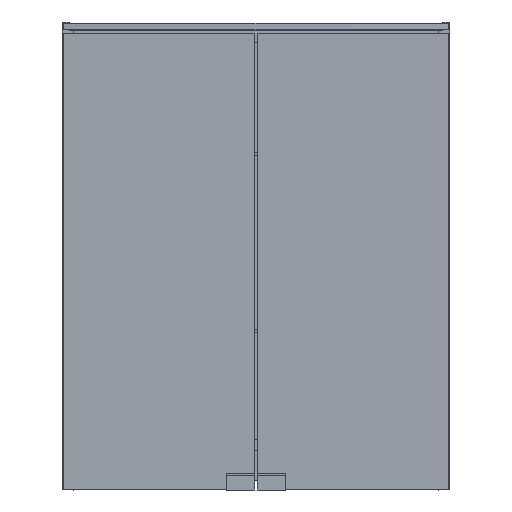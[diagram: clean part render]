
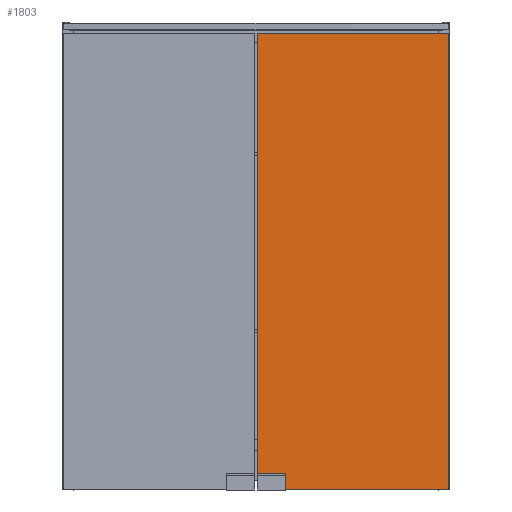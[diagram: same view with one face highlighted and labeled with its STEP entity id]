
A CAD part, front view. The second image highlights one B-rep face of the part: STEP entity #1803.
In plain terms, the highlighted planar face has unit normal (0, -1, 0).
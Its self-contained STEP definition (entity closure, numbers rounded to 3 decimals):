
#27=FACE_OUTER_BOUND('',#117,.T.);
#117=EDGE_LOOP('',(#1147,#1148,#1149,#1150,#1151,#1152));
#206=LINE('',#2445,#454);
#223=LINE('',#2478,#471);
#226=LINE('',#2485,#474);
#227=LINE('',#2487,#475);
#228=LINE('',#2489,#476);
#229=LINE('',#2490,#477);
#454=VECTOR('',#2008,10.);
#471=VECTOR('',#2033,10.);
#474=VECTOR('',#2040,10.);
#475=VECTOR('',#2041,10.);
#476=VECTOR('',#2042,10.);
#477=VECTOR('',#2043,10.);
#702=VERTEX_POINT('',#2442);
#703=VERTEX_POINT('',#2444);
#715=VERTEX_POINT('',#2476);
#717=VERTEX_POINT('',#2484);
#718=VERTEX_POINT('',#2486);
#719=VERTEX_POINT('',#2488);
#868=EDGE_CURVE('',#703,#702,#206,.T.);
#885=EDGE_CURVE('',#702,#715,#223,.T.);
#888=EDGE_CURVE('',#715,#717,#226,.T.);
#889=EDGE_CURVE('',#717,#718,#227,.T.);
#890=EDGE_CURVE('',#719,#718,#228,.T.);
#891=EDGE_CURVE('',#703,#719,#229,.T.);
#1147=ORIENTED_EDGE('',*,*,#868,.T.);
#1148=ORIENTED_EDGE('',*,*,#885,.T.);
#1149=ORIENTED_EDGE('',*,*,#888,.T.);
#1150=ORIENTED_EDGE('',*,*,#889,.T.);
#1151=ORIENTED_EDGE('',*,*,#890,.F.);
#1152=ORIENTED_EDGE('',*,*,#891,.F.);
#1621=PLANE('',#1915);
#1803=ADVANCED_FACE('',(#27),#1621,.T.);
#1915=AXIS2_PLACEMENT_3D('',#2483,#2038,#2039);
#2008=DIRECTION('',(0.,0.,-1.));
#2033=DIRECTION('',(1.,0.,0.));
#2038=DIRECTION('center_axis',(0.,-1.,0.));
#2039=DIRECTION('ref_axis',(0.,0.,-1.));
#2040=DIRECTION('',(0.,0.,-1.));
#2041=DIRECTION('',(1.,0.,0.));
#2042=DIRECTION('',(0.,0.,-1.));
#2043=DIRECTION('',(1.,0.,0.));
#2442=CARTESIAN_POINT('',(1.5,-140.,24.));
#2444=CARTESIAN_POINT('',(1.5,-140.,661.));
#2445=CARTESIAN_POINT('',(1.5,-140.,329.5));
#2476=CARTESIAN_POINT('',(42.5,-140.,24.));
#2478=CARTESIAN_POINT('',(0.,-140.,24.));
#2483=CARTESIAN_POINT('Origin',(0.,-140.,661.));
#2484=CARTESIAN_POINT('',(42.5,-140.,1.));
#2485=CARTESIAN_POINT('',(42.5,-140.,337.109));
#2486=CARTESIAN_POINT('',(278.5,-140.,1.));
#2487=CARTESIAN_POINT('',(0.,-140.,1.));
#2488=CARTESIAN_POINT('',(278.5,-140.,661.));
#2489=CARTESIAN_POINT('',(278.5,-140.,661.));
#2490=CARTESIAN_POINT('',(0.,-140.,661.));
